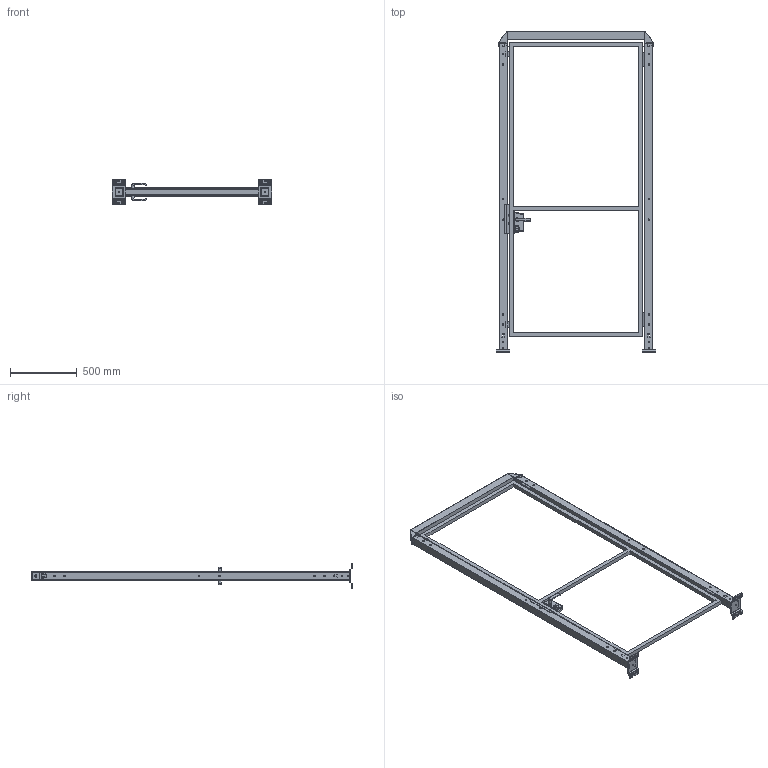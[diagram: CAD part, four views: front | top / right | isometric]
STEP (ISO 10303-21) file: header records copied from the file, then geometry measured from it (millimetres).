
FILE_DESCRIPTION(('STEP AP242'),'1');
FILE_NAME('vfda_bscgd03_10002320.stp','2025-01-31T11:26:34',('TraceParts'),('TraceParts S.A.'),'Spatial InterOp 3D',' ',' ');
FILE_SCHEMA(('AP242_MANAGED_MODEL_BASED_3D_ENGINEERING_MIM_LF {1 0 10303 442 1 1 4}'));
Length unit declared in the file: millimetre
Products named in the file (1): vfda_bscgd03_10002320_1
Bounding box: 1190 x 2401 x 192 mm (x, y, z)
Volume: 9320287.8 mm3; surface area: 3817825 mm2
Topology: 13 solids, 13 shells, 1633 faces, 4343 edges, 2774 vertices
Faces by surface type: plane 807, cylinder 554, bspline 198, cone 46, torus 28
Entity records: 68206 total; most frequent: CARTESIAN_POINT 14828, ORIENTED_EDGE 8686, DIRECTION 7987, EDGE_CURVE 4343, VERTEX_POINT 2774, AXIS2_PLACEMENT_3D 2674, LINE 2639, VECTOR 2639
